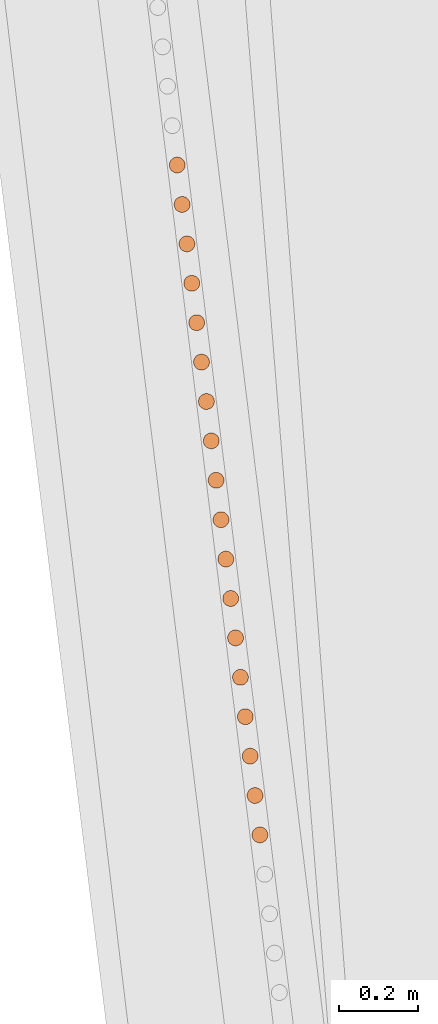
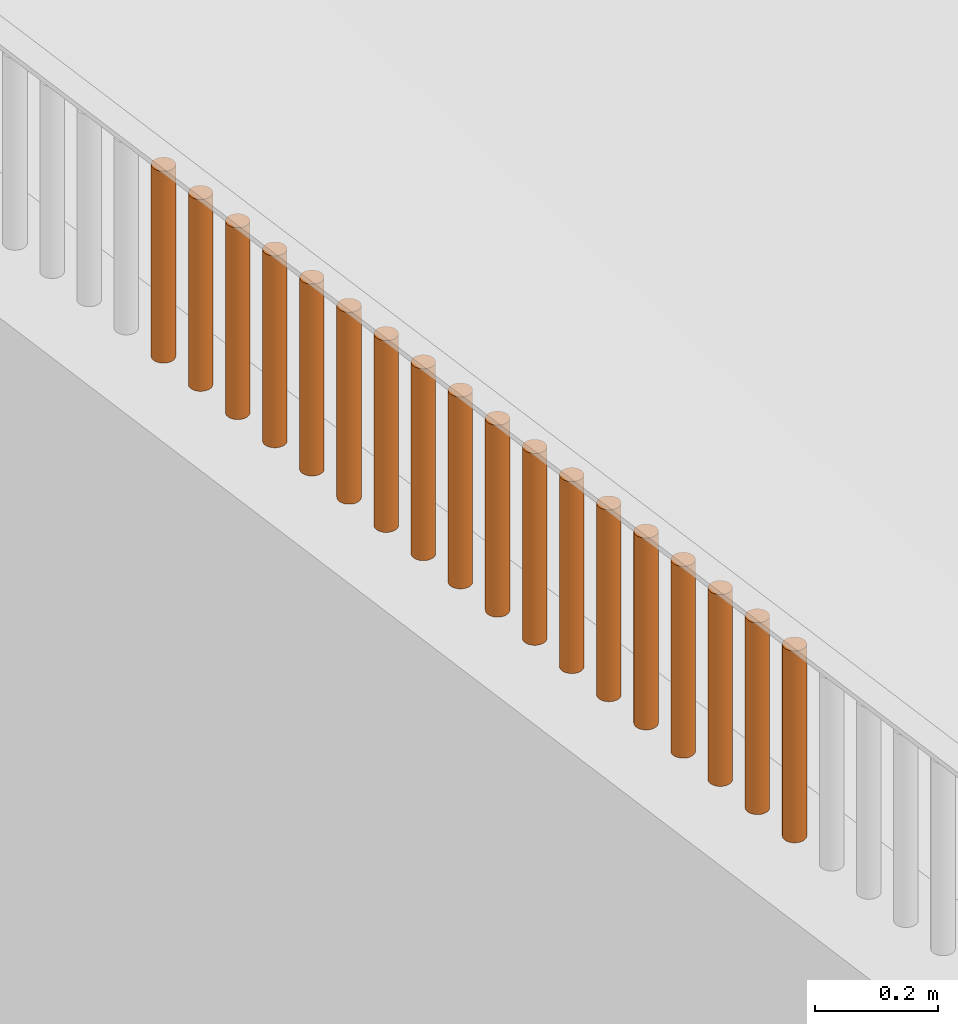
# One storey, part 66 of 1809: 18 proxies, 1 element without a shape of its own.
"""IFC2X3 building model written with IfcOpenShell, lengths in millimetres."""

from ifc_helpers import new_model, entity, si_unit, converted_unit, derived_unit, money_unit, direction, frame, origin_with_axes, place, context, subcontext, project, spatial, faceted_brep, source, transform, mapped, material, type_object, element, aggregate, save


model = new_model("IFC2X3")

# Units and contexts
model_context = context("Model", 3, precision=0.01, world=origin_with_axes(), true_north=direction((0.0, 1.0)))
body_context = subcontext(model_context, "Body", "Model", "MODEL_VIEW")
ifc_project = project(units=[si_unit("LENGTHUNIT", "METRE", prefix="MILLI"), si_unit("AREAUNIT", "SQUARE_METRE"), si_unit("VOLUMEUNIT", "CUBIC_METRE"), converted_unit("PLANEANGLEUNIT", "DEGREE", entity("IfcPlaneAngleMeasure", 0.0174532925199), si_unit("PLANEANGLEUNIT", "RADIAN"), dimensions=[0, 0, 0, 0, 0, 0, 0]), si_unit("SOLIDANGLEUNIT", "STERADIAN"), money_unit("EUR"), converted_unit("TIMEUNIT", "Year", entity("IfcTimeMeasure", 31556926.0), si_unit("TIMEUNIT", "SECOND"), dimensions=[0, 0, 1, 0, 0, 0, 0]), si_unit("MASSUNIT", "GRAM", prefix="KILO"), si_unit("THERMODYNAMICTEMPERATUREUNIT", "DEGREE_CELSIUS"), si_unit("LUMINOUSINTENSITYUNIT", "LUMEN"), si_unit("ENERGYUNIT", "JOULE", prefix="MEGA"), derived_unit("THERMALCONDUCTANCEUNIT", [(si_unit("POWERUNIT", "WATT"), 1), (si_unit("LENGTHUNIT", "METRE"), -1), (si_unit("THERMODYNAMICTEMPERATUREUNIT", "KELVIN"), -1)]), derived_unit("SPECIFICHEATCAPACITYUNIT", [(si_unit("ENERGYUNIT", "JOULE"), 1), (si_unit("MASSUNIT", "GRAM", prefix="KILO"), -1), (si_unit("THERMODYNAMICTEMPERATUREUNIT", "KELVIN"), -1)]), derived_unit("MASSDENSITYUNIT", [(si_unit("MASSUNIT", "GRAM", prefix="KILO"), 1), (si_unit("VOLUMEUNIT", "CUBIC_METRE"), -1)])], contexts=[model_context])

# Site, building, storey
site_placement = place(None, origin_with_axes())
site = spatial("IfcSite", under=ifc_project, at=site_placement, Name="Politse- ja Piirivalveameti ning Päästeameti ühishoone", CompositionType="ELEMENT")
building_placement = place(site_placement, origin_with_axes())
building = spatial("IfcBuilding", under=site, at=building_placement, Name="Politse- ja Piirivalveameti ning Päästeameti ühishoone", CompositionType="ELEMENT")
storey_placement = place(building_placement, origin_with_axes())
storey = spatial("IfcBuildingStorey", under=building, at=storey_placement, Name="Esimene korrus", CompositionType="ELEMENT", Elevation=0.0)

# Proxies
building_element_proxy_type_1 = type_object("IfcBuildingElementProxyType", Name="Railing Type", PredefinedType="NOTDEFINED")
proxy_1_placement = place(storey_placement, frame((-18956.5522504, -53688.4757966, 2100.0), z_axis=(0.0, 0.0, 1.0), x_axis=(1.0, 0.0, 0.0)))
proxy_1 = element("IfcBuildingElementProxy", 1, at=proxy_1_placement, inside=storey, type_object=building_element_proxy_type_1, Name="PIIRDEAED")
ifc_material = material(Name="ET-06_Teras - Konstruktsioon")
building_element_proxy_type_2 = type_object("IfcBuildingElementProxyType", Name="IfcBuildingElementProxy", PredefinedType="NOTDEFINED")
shared_shape_1 = source(origin_with_axes(), body_context, "Body", "Brep", [
    faceted_brep([(0.0, -20.0, 0.0), (3.47296355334, -19.6961550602, 0.0), (3.47296355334, -19.6961550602, 380.000012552), (0.0, -20.0, 380.000012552), (-3.47296355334, -19.6961550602, 0.0), (-6.84040286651, -18.7938524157, 0.0), (-10.0, -17.3205080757, 0.0), (-12.8557521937, -15.3208888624, 0.0), (-15.3208888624, -12.8557521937, 0.0), (-17.3205080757, -10.0, 0.0), (-18.7938524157, -6.84040286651, 0.0), (-19.6961550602, -3.47296355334, 0.0), (-20.0, 0.0, 0.0), (-19.6961550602, 3.47296355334, 0.0), (-18.7938524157, 6.84040286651, 0.0), (-17.3205080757, 10.0, 0.0), (-15.3208888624, 12.8557521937, 0.0), (-12.8557521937, 15.3208888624, 0.0), (-10.0, 17.3205080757, 0.0), (-6.84040286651, 18.7938524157, 0.0), (-3.47296355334, 19.6961550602, 0.0), (0.0, 20.0, 0.0), (3.47296355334, 19.6961550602, 0.0), (6.84040286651, 18.7938524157, 0.0), (10.0, 17.3205080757, 0.0), (12.8557521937, 15.3208888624, 0.0), (15.3208888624, 12.8557521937, 0.0), (17.3205080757, 10.0, 0.0), (18.7938524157, 6.84040286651, 0.0), (19.6961550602, 3.47296355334, 0.0), (20.0, 0.0, 0.0), (19.6961550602, -3.47296355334, 0.0), (18.7938524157, -6.84040286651, 0.0), (17.3205080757, -10.0, 0.0), (15.3208888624, -12.8557521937, 0.0), (12.8557521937, -15.3208888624, 0.0), (10.0, -17.3205080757, 0.0), (6.84040286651, -18.7938524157, 0.0), (6.84040286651, -18.7938524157, 380.000012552), (10.0, -17.3205080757, 380.000012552), (12.8557521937, -15.3208888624, 380.000012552), (15.3208888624, -12.8557521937, 380.000012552), (17.3205080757, -10.0, 380.000012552), (18.7938524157, -6.84040286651, 380.000012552), (19.6961550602, -3.47296355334, 380.000012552), (20.0, 0.0, 380.000012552), (19.6961550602, 3.47296355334, 380.000012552), (18.7938524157, 6.84040286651, 380.000012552), (17.3205080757, 10.0, 380.000012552), (15.3208888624, 12.8557521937, 380.000012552), (12.8557521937, 15.3208888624, 380.000012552), (10.0, 17.3205080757, 380.000012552), (6.84040286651, 18.7938524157, 380.000012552), (3.47296355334, 19.6961550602, 380.000012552), (0.0, 20.0, 380.000012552), (-3.47296355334, 19.6961550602, 380.000012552), (-6.84040286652, 18.7938524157, 380.000012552), (-10.0, 17.3205080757, 380.000012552), (-12.8557521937, 15.3208888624, 380.000012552), (-15.3208888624, 12.8557521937, 380.000012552), (-17.3205080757, 10.0, 380.000012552), (-18.7938524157, 6.84040286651, 380.000012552), (-19.6961550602, 3.47296355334, 380.000012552), (-20.0, 0.0, 380.000012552), (-19.6961550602, -3.47296355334, 380.000012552), (-18.7938524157, -6.84040286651, 380.000012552), (-17.3205080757, -10.0, 380.000012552), (-15.3208888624, -12.8557521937, 380.000012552), (-12.8557521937, -15.3208888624, 380.000012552), (-10.0, -17.3205080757, 380.000012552), (-6.84040286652, -18.7938524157, 380.000012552), (-3.47296355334, -19.6961550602, 380.000012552)], [[[0, 1, 2, 3]], [[0, 4, 5, 6, 7, 8, 9, 10, 11, 12, 13, 14, 15, 16, 17, 18, 19, 20, 21, 22, 23, 24, 25, 26, 27, 28, 29, 30, 31, 32, 33, 34, 35, 36, 37, 1]], [[1, 37, 38, 2]], [[3, 2, 38, 39, 40, 41, 42, 43, 44, 45, 46, 47, 48, 49, 50, 51, 52, 53, 54, 55, 56, 57, 58, 59, 60, 61, 62, 63, 64, 65, 66, 67, 68, 69, 70, 71]], [[4, 0, 3, 71]], [[5, 4, 71, 70]], [[6, 5, 70, 69]], [[7, 6, 69, 68]], [[8, 7, 68, 67]], [[9, 8, 67, 66]], [[10, 9, 66, 65]], [[11, 10, 65, 64]], [[12, 11, 64, 63]], [[13, 12, 63, 62]], [[14, 13, 62, 61]], [[15, 14, 61, 60]], [[16, 15, 60, 59]], [[17, 16, 59, 58]], [[18, 17, 58, 57]], [[19, 18, 57, 56]], [[20, 19, 56, 55]], [[21, 20, 55, 54]], [[22, 21, 54, 53]], [[23, 22, 53, 52]], [[24, 23, 52, 51]], [[25, 24, 51, 50]], [[26, 25, 50, 49]], [[27, 26, 49, 48]], [[28, 27, 48, 47]], [[29, 28, 47, 46]], [[30, 29, 46, 45]], [[31, 30, 45, 44]], [[32, 31, 44, 43]], [[33, 32, 43, 42]], [[34, 33, 42, 41]], [[35, 34, 41, 40]], [[36, 35, 40, 39]], [[37, 36, 39, 38]]]),
])
proxy_2_placement = place(proxy_1_placement, frame((-1783.20612074, 13612.6587818, -1.25517001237e-05), z_axis=(0.0, 0.0, 1.0), x_axis=(1.0, 0.0, 0.0)))
proxy_2 = element("IfcBuildingElementProxy", 2, at=proxy_2_placement, type_object=building_element_proxy_type_2, material=ifc_material, Name="BALUSTER - 001", context=body_context, shape_type="MappedRepresentation", body=[
    mapped(shared_shape_1, transform((0.0, 0.0, 0.0), x_axis=(0.992468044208, 0.122503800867, 0.0), y_axis=(-0.122503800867, 0.992468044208, 0.0), z_axis=(0.0, 0.0, 1.0))),
])
proxy_3_placement = place(proxy_1_placement, frame((-1844.44464531, 14108.784439, -1.25517001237e-05), z_axis=(0.0, 0.0, 1.0), x_axis=(1.0, 0.0, 0.0)))
proxy_3 = element("IfcBuildingElementProxy", 3, at=proxy_3_placement, type_object=building_element_proxy_type_2, material=ifc_material, Name="BALUSTER - 001", context=body_context, shape_type="MappedRepresentation", body=[
    mapped(shared_shape_1, transform((0.0, 0.0, 0.0), x_axis=(0.992468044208, 0.122503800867, 0.0), y_axis=(-0.122503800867, 0.992468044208, 0.0), z_axis=(0.0, 0.0, 1.0))),
])
shared_shape_2 = source(origin_with_axes(), body_context, "Body", "Brep", [
    faceted_brep([(0.0, -20.0, 0.0), (3.47296355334, -19.6961550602, 0.0), (3.47296355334, -19.6961550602, 380.000012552), (0.0, -20.0, 380.000012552), (-3.47296355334, -19.6961550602, 0.0), (-6.84040286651, -18.7938524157, 0.0), (-10.0, -17.3205080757, 0.0), (-12.8557521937, -15.3208888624, 0.0), (-15.3208888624, -12.8557521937, 0.0), (-17.3205080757, -10.0, 0.0), (-18.7938524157, -6.84040286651, 0.0), (-19.6961550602, -3.47296355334, 0.0), (-20.0, 0.0, 0.0), (-19.6961550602, 3.47296355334, 0.0), (-18.7938524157, 6.84040286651, 0.0), (-17.3205080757, 10.0, 0.0), (-15.3208888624, 12.8557521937, 0.0), (-12.8557521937, 15.3208888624, 0.0), (-10.0, 17.3205080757, 0.0), (-6.84040286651, 18.7938524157, 0.0), (-3.47296355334, 19.6961550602, 0.0), (0.0, 20.0, 0.0), (3.47296355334, 19.6961550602, 0.0), (6.84040286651, 18.7938524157, 0.0), (10.0, 17.3205080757, 0.0), (12.8557521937, 15.3208888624, 0.0), (15.3208888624, 12.8557521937, 0.0), (17.3205080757, 10.0, 0.0), (18.7938524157, 6.84040286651, 0.0), (19.6961550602, 3.47296355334, 0.0), (20.0, 0.0, 0.0), (19.6961550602, -3.47296355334, 0.0), (18.7938524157, -6.84040286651, 0.0), (17.3205080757, -10.0, 0.0), (15.3208888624, -12.8557521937, 0.0), (12.8557521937, -15.3208888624, 0.0), (10.0, -17.3205080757, 0.0), (6.84040286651, -18.7938524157, 0.0), (6.84040286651, -18.7938524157, 380.000012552), (10.0, -17.3205080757, 380.000012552), (12.8557521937, -15.3208888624, 380.000012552), (15.3208888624, -12.8557521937, 380.000012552), (17.3205080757, -10.0, 380.000012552), (18.7938524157, -6.84040286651, 380.000012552), (19.6961550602, -3.47296355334, 380.000012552), (20.0, 0.0, 380.000012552), (19.6961550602, 3.47296355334, 380.000012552), (18.7938524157, 6.84040286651, 380.000012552), (17.3205080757, 10.0, 380.000012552), (15.3208888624, 12.8557521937, 380.000012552), (12.8557521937, 15.3208888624, 380.000012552), (10.0, 17.3205080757, 380.000012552), (6.84040286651, 18.7938524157, 380.000012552), (3.47296355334, 19.6961550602, 380.000012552), (0.0, 20.0, 380.000012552), (-3.47296355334, 19.6961550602, 380.000012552), (-6.84040286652, 18.7938524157, 380.000012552), (-10.0, 17.3205080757, 380.000012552), (-12.8557521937, 15.3208888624, 380.000012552), (-15.3208888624, 12.8557521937, 380.000012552), (-17.3205080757, 10.0, 380.000012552), (-18.7938524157, 6.84040286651, 380.000012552), (-19.6961550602, 3.47296355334, 380.000012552), (-20.0, 0.0, 380.000012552), (-19.6961550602, -3.47296355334, 380.000012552), (-18.7938524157, -6.84040286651, 380.000012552), (-17.3205080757, -10.0, 380.000012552), (-15.3208888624, -12.8557521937, 380.000012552), (-12.8557521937, -15.3208888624, 380.000012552), (-10.0, -17.3205080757, 380.000012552), (-6.84040286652, -18.7938524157, 380.000012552), (-3.47296355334, -19.6961550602, 380.000012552)], [[[0, 1, 2, 3]], [[0, 4, 5, 6, 7, 8, 9, 10, 11, 12, 13, 14, 15, 16, 17, 18, 19, 20, 21, 22, 23, 24, 25, 26, 27, 28, 29, 30, 31, 32, 33, 34, 35, 36, 37, 1]], [[1, 37, 38, 2]], [[3, 2, 38, 39, 40, 41, 42, 43, 44, 45, 46, 47, 48, 49, 50, 51, 52, 53, 54, 55, 56, 57, 58, 59, 60, 61, 62, 63, 64, 65, 66, 67, 68, 69, 70, 71]], [[4, 0, 3, 71]], [[5, 4, 71, 70]], [[6, 5, 70, 69]], [[7, 6, 69, 68]], [[8, 7, 68, 67]], [[9, 8, 67, 66]], [[10, 9, 66, 65]], [[11, 10, 65, 64]], [[12, 11, 64, 63]], [[13, 12, 63, 62]], [[14, 13, 62, 61]], [[15, 14, 61, 60]], [[16, 15, 60, 59]], [[17, 16, 59, 58]], [[18, 17, 58, 57]], [[19, 18, 57, 56]], [[20, 19, 56, 55]], [[21, 20, 55, 54]], [[22, 21, 54, 53]], [[23, 22, 53, 52]], [[24, 23, 52, 51]], [[25, 24, 51, 50]], [[26, 25, 50, 49]], [[27, 26, 49, 48]], [[28, 27, 48, 47]], [[29, 28, 47, 46]], [[30, 29, 46, 45]], [[31, 30, 45, 44]], [[32, 31, 44, 43]], [[33, 32, 43, 42]], [[34, 33, 42, 41]], [[35, 34, 41, 40]], [[36, 35, 40, 39]], [[37, 36, 39, 38]]]),
])
proxy_4_placement = place(proxy_1_placement, frame((-1672.97677652, 12719.632599, -1.25517001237e-05), z_axis=(0.0, 0.0, 1.0), x_axis=(1.0, 0.0, 0.0)))
proxy_4 = element("IfcBuildingElementProxy", 4, at=proxy_4_placement, type_object=building_element_proxy_type_2, material=ifc_material, Name="BALUSTER - 001", context=body_context, shape_type="MappedRepresentation", body=[
    mapped(shared_shape_2, transform((0.0, 0.0, 0.0), x_axis=(0.992468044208, 0.122503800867, 0.0), y_axis=(-0.122503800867, 0.992468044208, 0.0), z_axis=(0.0, 0.0, 1.0))),
])
proxy_5_placement = place(proxy_1_placement, frame((-1685.22448144, 12818.8577304, -1.25517001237e-05), z_axis=(0.0, 0.0, 1.0), x_axis=(1.0, 0.0, 0.0)))
proxy_5 = element("IfcBuildingElementProxy", 5, at=proxy_5_placement, type_object=building_element_proxy_type_2, material=ifc_material, Name="BALUSTER - 001", context=body_context, shape_type="MappedRepresentation", body=[
    mapped(shared_shape_2, transform((0.0, 0.0, 0.0), x_axis=(0.992468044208, 0.122503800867, 0.0), y_axis=(-0.122503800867, 0.992468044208, 0.0), z_axis=(0.0, 0.0, 1.0))),
])
proxy_6_placement = place(proxy_1_placement, frame((-1697.47218635, 12918.0828619, -1.25517001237e-05), z_axis=(0.0, 0.0, 1.0), x_axis=(1.0, 0.0, 0.0)))
proxy_6 = element("IfcBuildingElementProxy", 6, at=proxy_6_placement, type_object=building_element_proxy_type_2, material=ifc_material, Name="BALUSTER - 001", context=body_context, shape_type="MappedRepresentation", body=[
    mapped(shared_shape_2, transform((0.0, 0.0, 0.0), x_axis=(0.992468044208, 0.122503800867, 0.0), y_axis=(-0.122503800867, 0.992468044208, 0.0), z_axis=(0.0, 0.0, 1.0))),
])
proxy_7_placement = place(proxy_1_placement, frame((-1709.71989126, 13017.3079933, -1.25517001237e-05), z_axis=(0.0, 0.0, 1.0), x_axis=(1.0, 0.0, 0.0)))
proxy_7 = element("IfcBuildingElementProxy", 7, at=proxy_7_placement, type_object=building_element_proxy_type_2, material=ifc_material, Name="BALUSTER - 001", context=body_context, shape_type="MappedRepresentation", body=[
    mapped(shared_shape_2, transform((0.0, 0.0, 0.0), x_axis=(0.992468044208, 0.122503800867, 0.0), y_axis=(-0.122503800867, 0.992468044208, 0.0), z_axis=(0.0, 0.0, 1.0))),
])
proxy_8_placement = place(proxy_1_placement, frame((-1734.21530109, 13215.7582561, -1.25517001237e-05), z_axis=(0.0, 0.0, 1.0), x_axis=(1.0, 0.0, 0.0)))
proxy_8 = element("IfcBuildingElementProxy", 8, at=proxy_8_placement, type_object=building_element_proxy_type_2, material=ifc_material, Name="BALUSTER - 001", context=body_context, shape_type="MappedRepresentation", body=[
    mapped(shared_shape_2, transform((0.0, 0.0, 0.0), x_axis=(0.992468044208, 0.122503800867, 0.0), y_axis=(-0.122503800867, 0.992468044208, 0.0), z_axis=(0.0, 0.0, 1.0))),
])
proxy_9_placement = place(proxy_1_placement, frame((-1795.45382566, 13711.8839133, -1.25517001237e-05), z_axis=(0.0, 0.0, 1.0), x_axis=(1.0, 0.0, 0.0)))
proxy_9 = element("IfcBuildingElementProxy", 9, at=proxy_9_placement, type_object=building_element_proxy_type_2, material=ifc_material, Name="BALUSTER - 001", context=body_context, shape_type="MappedRepresentation", body=[
    mapped(shared_shape_2, transform((0.0, 0.0, 0.0), x_axis=(0.992468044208, 0.122503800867, 0.0), y_axis=(-0.122503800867, 0.992468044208, 0.0), z_axis=(0.0, 0.0, 1.0))),
])
proxy_10_placement = place(proxy_1_placement, frame((-1807.70153057, 13811.1090447, -1.25517001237e-05), z_axis=(0.0, 0.0, 1.0), x_axis=(1.0, 0.0, 0.0)))
proxy_10 = element("IfcBuildingElementProxy", 10, at=proxy_10_placement, type_object=building_element_proxy_type_2, material=ifc_material, Name="BALUSTER - 001", context=body_context, shape_type="MappedRepresentation", body=[
    mapped(shared_shape_2, transform((0.0, 0.0, 0.0), x_axis=(0.992468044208, 0.122503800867, 0.0), y_axis=(-0.122503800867, 0.992468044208, 0.0), z_axis=(0.0, 0.0, 1.0))),
])
proxy_11_placement = place(proxy_1_placement, frame((-1832.19694039, 14009.5593075, -1.25517001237e-05), z_axis=(0.0, 0.0, 1.0), x_axis=(1.0, 0.0, 0.0)))
proxy_11 = element("IfcBuildingElementProxy", 11, at=proxy_11_placement, type_object=building_element_proxy_type_2, material=ifc_material, Name="BALUSTER - 001", context=body_context, shape_type="MappedRepresentation", body=[
    mapped(shared_shape_2, transform((0.0, 0.0, 0.0), x_axis=(0.992468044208, 0.122503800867, 0.0), y_axis=(-0.122503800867, 0.992468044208, 0.0), z_axis=(0.0, 0.0, 1.0))),
])
proxy_12_placement = place(proxy_1_placement, frame((-1856.69235022, 14208.0095704, -1.25517001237e-05), z_axis=(0.0, 0.0, 1.0), x_axis=(1.0, 0.0, 0.0)))
proxy_12 = element("IfcBuildingElementProxy", 12, at=proxy_12_placement, type_object=building_element_proxy_type_2, material=ifc_material, Name="BALUSTER - 001", context=body_context, shape_type="MappedRepresentation", body=[
    mapped(shared_shape_2, transform((0.0, 0.0, 0.0), x_axis=(0.992468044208, 0.122503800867, 0.0), y_axis=(-0.122503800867, 0.992468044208, 0.0), z_axis=(0.0, 0.0, 1.0))),
])
proxy_13_placement = place(proxy_1_placement, frame((-1868.94005513, 14307.2347018, -1.25517001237e-05), z_axis=(0.0, 0.0, 1.0), x_axis=(1.0, 0.0, 0.0)))
proxy_13 = element("IfcBuildingElementProxy", 13, at=proxy_13_placement, type_object=building_element_proxy_type_2, material=ifc_material, Name="BALUSTER - 001", context=body_context, shape_type="MappedRepresentation", body=[
    mapped(shared_shape_2, transform((0.0, 0.0, 0.0), x_axis=(0.992468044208, 0.122503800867, 0.0), y_axis=(-0.122503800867, 0.992468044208, 0.0), z_axis=(0.0, 0.0, 1.0))),
])
proxy_14_placement = place(proxy_1_placement, frame((-1881.18776005, 14406.4598332, -1.25517001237e-05), z_axis=(0.0, 0.0, 1.0), x_axis=(1.0, 0.0, 0.0)))
proxy_14 = element("IfcBuildingElementProxy", 14, at=proxy_14_placement, type_object=building_element_proxy_type_2, material=ifc_material, Name="BALUSTER - 001", context=body_context, shape_type="MappedRepresentation", body=[
    mapped(shared_shape_2, transform((0.0, 0.0, 0.0), x_axis=(0.992468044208, 0.122503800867, 0.0), y_axis=(-0.122503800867, 0.992468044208, 0.0), z_axis=(0.0, 0.0, 1.0))),
])
shared_shape_3 = source(origin_with_axes(), body_context, "Body", "Brep", [
    faceted_brep([(0.0, -20.0, 0.0), (3.47296355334, -19.6961550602, 0.0), (3.47296355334, -19.6961550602, 380.000012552), (0.0, -20.0, 380.000012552), (-3.47296355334, -19.6961550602, 0.0), (-6.84040286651, -18.7938524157, 0.0), (-10.0, -17.3205080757, 0.0), (-12.8557521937, -15.3208888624, 0.0), (-15.3208888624, -12.8557521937, 0.0), (-17.3205080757, -10.0, 0.0), (-18.7938524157, -6.84040286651, 0.0), (-19.6961550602, -3.47296355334, 0.0), (-20.0, 0.0, 0.0), (-19.6961550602, 3.47296355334, 0.0), (-18.7938524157, 6.84040286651, 0.0), (-17.3205080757, 10.0, 0.0), (-15.3208888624, 12.8557521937, 0.0), (-12.8557521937, 15.3208888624, 0.0), (-10.0, 17.3205080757, 0.0), (-6.84040286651, 18.7938524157, 0.0), (-3.47296355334, 19.6961550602, 0.0), (0.0, 20.0, 0.0), (3.47296355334, 19.6961550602, 0.0), (6.84040286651, 18.7938524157, 0.0), (10.0, 17.3205080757, 0.0), (12.8557521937, 15.3208888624, 0.0), (15.3208888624, 12.8557521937, 0.0), (17.3205080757, 10.0, 0.0), (18.7938524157, 6.84040286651, 0.0), (19.6961550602, 3.47296355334, 0.0), (20.0, 0.0, 0.0), (19.6961550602, -3.47296355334, 0.0), (18.7938524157, -6.84040286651, 0.0), (17.3205080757, -10.0, 0.0), (15.3208888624, -12.8557521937, 0.0), (12.8557521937, -15.3208888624, 0.0), (10.0, -17.3205080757, 0.0), (6.84040286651, -18.7938524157, 0.0), (6.84040286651, -18.7938524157, 380.000012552), (10.0, -17.3205080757, 380.000012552), (12.8557521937, -15.3208888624, 380.000012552), (15.3208888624, -12.8557521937, 380.000012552), (17.3205080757, -10.0, 380.000012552), (18.7938524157, -6.84040286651, 380.000012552), (19.6961550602, -3.47296355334, 380.000012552), (20.0, 0.0, 380.000012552), (19.6961550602, 3.47296355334, 380.000012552), (18.7938524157, 6.84040286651, 380.000012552), (17.3205080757, 10.0, 380.000012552), (15.3208888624, 12.8557521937, 380.000012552), (12.8557521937, 15.3208888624, 380.000012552), (10.0, 17.3205080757, 380.000012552), (6.84040286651, 18.7938524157, 380.000012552), (3.47296355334, 19.6961550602, 380.000012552), (0.0, 20.0, 380.000012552), (-3.47296355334, 19.6961550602, 380.000012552), (-6.84040286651, 18.7938524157, 380.000012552), (-10.0, 17.3205080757, 380.000012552), (-12.8557521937, 15.3208888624, 380.000012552), (-15.3208888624, 12.8557521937, 380.000012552), (-17.3205080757, 10.0, 380.000012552), (-18.7938524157, 6.84040286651, 380.000012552), (-19.6961550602, 3.47296355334, 380.000012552), (-20.0, 0.0, 380.000012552), (-19.6961550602, -3.47296355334, 380.000012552), (-18.7938524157, -6.84040286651, 380.000012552), (-17.3205080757, -10.0, 380.000012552), (-15.3208888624, -12.8557521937, 380.000012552), (-12.8557521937, -15.3208888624, 380.000012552), (-10.0, -17.3205080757, 380.000012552), (-6.84040286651, -18.7938524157, 380.000012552), (-3.47296355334, -19.6961550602, 380.000012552)], [[[0, 1, 2, 3]], [[0, 4, 5, 6, 7, 8, 9, 10, 11, 12, 13, 14, 15, 16, 17, 18, 19, 20, 21, 22, 23, 24, 25, 26, 27, 28, 29, 30, 31, 32, 33, 34, 35, 36, 37, 1]], [[1, 37, 38, 2]], [[3, 2, 38, 39, 40, 41, 42, 43, 44, 45, 46, 47, 48, 49, 50, 51, 52, 53, 54, 55, 56, 57, 58, 59, 60, 61, 62, 63, 64, 65, 66, 67, 68, 69, 70, 71]], [[4, 0, 3, 71]], [[5, 4, 71, 70]], [[6, 5, 70, 69]], [[7, 6, 69, 68]], [[8, 7, 68, 67]], [[9, 8, 67, 66]], [[10, 9, 66, 65]], [[11, 10, 65, 64]], [[12, 11, 64, 63]], [[13, 12, 63, 62]], [[14, 13, 62, 61]], [[15, 14, 61, 60]], [[16, 15, 60, 59]], [[17, 16, 59, 58]], [[18, 17, 58, 57]], [[19, 18, 57, 56]], [[20, 19, 56, 55]], [[21, 20, 55, 54]], [[22, 21, 54, 53]], [[23, 22, 53, 52]], [[24, 23, 52, 51]], [[25, 24, 51, 50]], [[26, 25, 50, 49]], [[27, 26, 49, 48]], [[28, 27, 48, 47]], [[29, 28, 47, 46]], [[30, 29, 46, 45]], [[31, 30, 45, 44]], [[32, 31, 44, 43]], [[33, 32, 43, 42]], [[34, 33, 42, 41]], [[35, 34, 41, 40]], [[36, 35, 40, 39]], [[37, 36, 39, 38]]]),
])
proxy_15_placement = place(proxy_1_placement, frame((-1746.463006, 13314.9833876, -1.25517001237e-05), z_axis=(0.0, 0.0, 1.0), x_axis=(1.0, 0.0, 0.0)))
proxy_15 = element("IfcBuildingElementProxy", 15, at=proxy_15_placement, type_object=building_element_proxy_type_2, material=ifc_material, Name="BALUSTER - 001", context=body_context, shape_type="MappedRepresentation", body=[
    mapped(shared_shape_3, transform((0.0, 0.0, 0.0), x_axis=(0.992468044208, 0.122503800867, 0.0), y_axis=(-0.122503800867, 0.992468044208, 0.0), z_axis=(0.0, 0.0, 1.0))),
])
proxy_16_placement = place(proxy_1_placement, frame((-1758.71071092, 13414.208519, -1.25517001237e-05), z_axis=(0.0, 0.0, 1.0), x_axis=(1.0, 0.0, 0.0)))
proxy_16 = element("IfcBuildingElementProxy", 16, at=proxy_16_placement, type_object=building_element_proxy_type_2, material=ifc_material, Name="BALUSTER - 001", context=body_context, shape_type="MappedRepresentation", body=[
    mapped(shared_shape_3, transform((0.0, 0.0, 0.0), x_axis=(0.992468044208, 0.122503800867, 0.0), y_axis=(-0.122503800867, 0.992468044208, 0.0), z_axis=(0.0, 0.0, 1.0))),
])
proxy_17_placement = place(proxy_1_placement, frame((-1770.95841583, 13513.4336504, -1.25517001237e-05), z_axis=(0.0, 0.0, 1.0), x_axis=(1.0, 0.0, 0.0)))
proxy_17 = element("IfcBuildingElementProxy", 17, at=proxy_17_placement, type_object=building_element_proxy_type_2, material=ifc_material, Name="BALUSTER - 001", context=body_context, shape_type="MappedRepresentation", body=[
    mapped(shared_shape_3, transform((0.0, 0.0, 0.0), x_axis=(0.992468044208, 0.122503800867, 0.0), y_axis=(-0.122503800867, 0.992468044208, 0.0), z_axis=(0.0, 0.0, 1.0))),
])
proxy_18_placement = place(proxy_1_placement, frame((-1819.94923548, 13910.3341761, -1.25517001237e-05), z_axis=(0.0, 0.0, 1.0), x_axis=(1.0, 0.0, 0.0)))
proxy_18 = element("IfcBuildingElementProxy", 18, at=proxy_18_placement, type_object=building_element_proxy_type_2, material=ifc_material, Name="BALUSTER - 001", context=body_context, shape_type="MappedRepresentation", body=[
    mapped(shared_shape_3, transform((0.0, 0.0, 0.0), x_axis=(0.992468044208, 0.122503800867, 0.0), y_axis=(-0.122503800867, 0.992468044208, 0.0), z_axis=(0.0, 0.0, 1.0))),
])
shared_shape_4 = source(origin_with_axes(), body_context, "Body", "Brep", [
    faceted_brep([(0.0, -20.0, 0.0), (3.47296355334, -19.6961550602, 0.0), (3.47296355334, -19.6961550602, 380.000012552), (0.0, -20.0, 380.000012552), (-3.47296355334, -19.6961550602, 0.0), (-6.84040286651, -18.7938524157, 0.0), (-10.0, -17.3205080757, 0.0), (-12.8557521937, -15.3208888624, 0.0), (-15.3208888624, -12.8557521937, 0.0), (-17.3205080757, -10.0, 0.0), (-18.7938524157, -6.84040286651, 0.0), (-19.6961550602, -3.47296355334, 0.0), (-20.0, 0.0, 0.0), (-19.6961550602, 3.47296355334, 0.0), (-18.7938524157, 6.84040286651, 0.0), (-17.3205080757, 10.0, 0.0), (-15.3208888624, 12.8557521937, 0.0), (-12.8557521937, 15.3208888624, 0.0), (-10.0, 17.3205080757, 0.0), (-6.84040286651, 18.7938524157, 0.0), (-3.47296355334, 19.6961550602, 0.0), (0.0, 20.0, 0.0), (3.47296355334, 19.6961550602, 0.0), (6.84040286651, 18.7938524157, 0.0), (10.0, 17.3205080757, 0.0), (12.8557521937, 15.3208888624, 0.0), (15.3208888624, 12.8557521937, 0.0), (17.3205080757, 10.0, 0.0), (18.7938524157, 6.84040286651, 0.0), (19.6961550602, 3.47296355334, 0.0), (20.0, 0.0, 0.0), (19.6961550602, -3.47296355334, 0.0), (18.7938524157, -6.84040286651, 0.0), (17.3205080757, -10.0, 0.0), (15.3208888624, -12.8557521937, 0.0), (12.8557521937, -15.3208888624, 0.0), (10.0, -17.3205080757, 0.0), (6.84040286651, -18.7938524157, 0.0), (6.84040286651, -18.7938524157, 380.000012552), (10.0, -17.3205080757, 380.000012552), (12.8557521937, -15.3208888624, 380.000012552), (15.3208888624, -12.8557521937, 380.000012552), (17.3205080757, -9.99999999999, 380.000012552), (18.7938524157, -6.84040286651, 380.000012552), (19.6961550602, -3.47296355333, 380.000012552), (20.0, 0.0, 380.000012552), (19.6961550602, 3.47296355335, 380.000012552), (18.7938524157, 6.84040286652, 380.000012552), (17.3205080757, 10.0, 380.000012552), (15.3208888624, 12.8557521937, 380.000012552), (12.8557521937, 15.3208888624, 380.000012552), (10.0, 17.3205080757, 380.000012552), (6.84040286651, 18.7938524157, 380.000012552), (3.47296355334, 19.6961550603, 380.000012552), (0.0, 20.0, 380.000012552), (-3.47296355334, 19.6961550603, 380.000012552), (-6.84040286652, 18.7938524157, 380.000012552), (-10.0, 17.3205080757, 380.000012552), (-12.8557521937, 15.3208888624, 380.000012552), (-15.3208888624, 12.8557521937, 380.000012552), (-17.3205080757, 10.0, 380.000012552), (-18.7938524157, 6.84040286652, 380.000012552), (-19.6961550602, 3.47296355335, 380.000012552), (-20.0, 0.0, 380.000012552), (-19.6961550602, -3.47296355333, 380.000012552), (-18.7938524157, -6.84040286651, 380.000012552), (-17.3205080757, -9.99999999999, 380.000012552), (-15.3208888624, -12.8557521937, 380.000012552), (-12.8557521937, -15.3208888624, 380.000012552), (-10.0, -17.3205080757, 380.000012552), (-6.84040286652, -18.7938524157, 380.000012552), (-3.47296355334, -19.6961550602, 380.000012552)], [[[0, 1, 2, 3]], [[0, 4, 5, 6, 7, 8, 9, 10, 11, 12, 13, 14, 15, 16, 17, 18, 19, 20, 21, 22, 23, 24, 25, 26, 27, 28, 29, 30, 31, 32, 33, 34, 35, 36, 37, 1]], [[1, 37, 38, 2]], [[3, 2, 38, 39, 40, 41, 42, 43, 44, 45, 46, 47, 48, 49, 50, 51, 52, 53, 54, 55, 56, 57, 58, 59, 60, 61, 62, 63, 64, 65, 66, 67, 68, 69, 70, 71]], [[4, 0, 3, 71]], [[5, 4, 71, 70]], [[6, 5, 70, 69]], [[7, 6, 69, 68]], [[8, 7, 68, 67]], [[9, 8, 67, 66]], [[10, 9, 66, 65]], [[11, 10, 65, 64]], [[12, 11, 64, 63]], [[13, 12, 63, 62]], [[14, 13, 62, 61]], [[15, 14, 61, 60]], [[16, 15, 60, 59]], [[17, 16, 59, 58]], [[18, 17, 58, 57]], [[19, 18, 57, 56]], [[20, 19, 56, 55]], [[21, 20, 55, 54]], [[22, 21, 54, 53]], [[23, 22, 53, 52]], [[24, 23, 52, 51]], [[25, 24, 51, 50]], [[26, 25, 50, 49]], [[27, 26, 49, 48]], [[28, 27, 48, 47]], [[29, 28, 47, 46]], [[30, 29, 46, 45]], [[31, 30, 45, 44]], [[32, 31, 44, 43]], [[33, 32, 43, 42]], [[34, 33, 42, 41]], [[35, 34, 41, 40]], [[36, 35, 40, 39]], [[37, 36, 39, 38]]]),
])
proxy_19_placement = place(proxy_1_placement, frame((-1721.96759618, 13116.5331247, -1.25517001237e-05), z_axis=(0.0, 0.0, 1.0), x_axis=(1.0, 0.0, 0.0)))
proxy_19 = element("IfcBuildingElementProxy", 19, at=proxy_19_placement, type_object=building_element_proxy_type_2, material=ifc_material, Name="BALUSTER - 001", context=body_context, shape_type="MappedRepresentation", body=[
    mapped(shared_shape_4, transform((0.0, 0.0, 0.0), x_axis=(0.992468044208, 0.122503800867, 0.0), y_axis=(-0.122503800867, 0.992468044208, 0.0), z_axis=(0.0, 0.0, 1.0))),
])
aggregate(proxy_1, [proxy_4, proxy_5, proxy_6, proxy_7, proxy_19, proxy_8, proxy_15, proxy_16, proxy_17, proxy_2, proxy_9, proxy_10, proxy_18, proxy_11, proxy_3, proxy_12, proxy_13, proxy_14])

save(model, "model.ifc")
